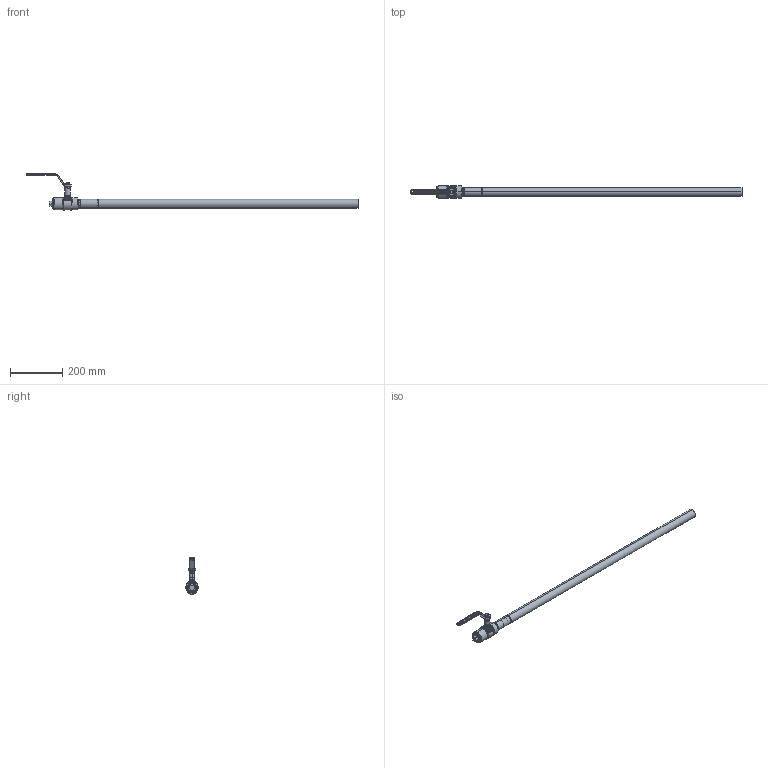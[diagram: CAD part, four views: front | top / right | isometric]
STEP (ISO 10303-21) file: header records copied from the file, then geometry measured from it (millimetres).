
FILE_DESCRIPTION((''),'2;1');
FILE_NAME('KHMO-ELE-25R20-SM-H','2024-04-18T11:22:13',('jeitlers'),('KLINGER'),'CREO PARAMETRIC BY PTC INC, 2023014','CREO PARAMETRIC BY PTC INC, 2023014','');
FILE_SCHEMA(('CONFIG_CONTROL_DESIGN'));
Products named in the file (1): KHMO-ELE-25R20-SM-H
Bounding box: 1275 x 49 x 139 mm (x, y, z)
Volume: 440094.1 mm3; surface area: 264997.3 mm2
Topology: 1 solids, 1 shells, 659 faces, 1518 edges, 874 vertices
Faces by surface type: cylinder 213, bspline 142, plane 123, torus 95, cone 73, sphere 8, extrusion 5
Entity records: 36540 total; most frequent: CARTESIAN_POINT 22518, ORIENTED_EDGE 3032, DIRECTION 2809, EDGE_CURVE 1516, AXIS2_PLACEMENT_3D 1162, VERTEX_POINT 874, EDGE_LOOP 690, FACE_OUTER_BOUND 659
